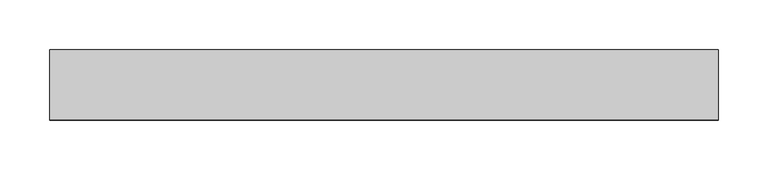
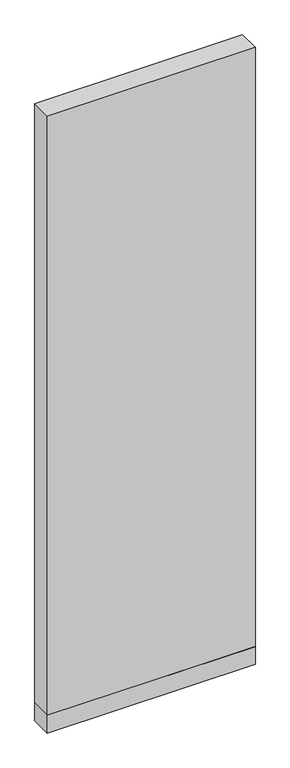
"""IFC4 building model written with IfcOpenShell, lengths in millimetres: plate geometry, 営_パーティションパネル_下部 : パーティションパネル_下部."""

from ifc_helpers import new_model, si_unit, frame, origin, origin_with_axes, place, context, project, spatial, polyline, outline, extrude, source, transform, mapped, element, save


def plate_bac15c8e(model_context):
    return source(origin(), model_context, "Body", "SweptSolid", [
        extrude(outline(polyline([(-334.9999998, -35.0), (-334.9999998, 35.0), (334.9999998, 35.0), (334.9999998, -35.0), (-334.9999998, -35.0)])), origin_with_axes(), (0.0, 0.0, 1.0), 60.0),
        extrude(outline(polyline([(-334.9999998, -35.0), (-334.9999998, 35.0), (334.9999998, 35.0), (334.9999998, -35.0), (-334.9999998, -35.0)])), frame((0.0, 0.0, 60.0), z_axis=(0.0, 0.0, 1.0), x_axis=(1.0, 0.0, 0.0)), (0.0, 0.0, 1.0), 2040.0),
    ])


if __name__ == "__main__":
    model = new_model("IFC4")
    model_context = context("Model", 3, world=origin())
    ifc_project = project(units=[si_unit("LENGTHUNIT", "METRE", prefix="MILLI")], contexts=[model_context])
    site = spatial("IfcSite", under=ifc_project)
    building = spatial("IfcBuilding", under=site)
    placement = place(None, origin())
    plate_shape = plate_bac15c8e(model_context)
    element("IfcPlate", 1, ObjectType="営_パーティションパネル_下部 : パーティションパネル_下部", at=placement, inside=building, context=model_context, shape_type="MappedRepresentation", body=[
        mapped(plate_shape, transform((0.0, 0.0, 0.0), x_axis=(1.0, 0.0, 0.0), y_axis=(0.0, 1.0, 0.0), z_axis=(0.0, 0.0, 1.0))),
    ])
    save(model, "model.ifc")
